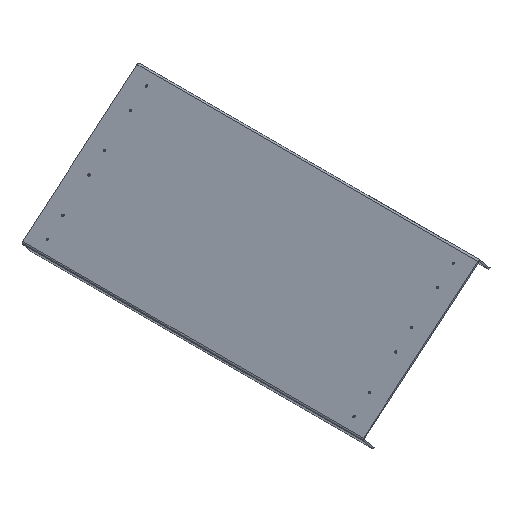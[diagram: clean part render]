
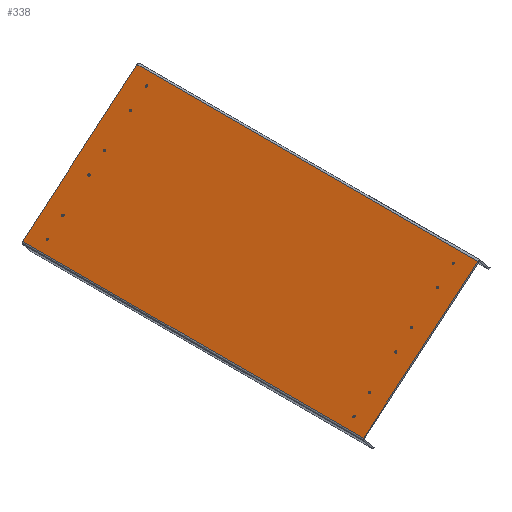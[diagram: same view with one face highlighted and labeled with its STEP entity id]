
A CAD part, isometric view. The second image highlights one B-rep face of the part: STEP entity #338.
In plain terms, the highlighted planar face has unit normal (-0.643, 0, 0.766).
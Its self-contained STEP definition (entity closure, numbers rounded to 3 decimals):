
#59=CARTESIAN_POINT('',(122.451,3520.5,1168.119));
#60=DIRECTION('',(-0.643,0.,0.766));
#61=DIRECTION('',(0.,1.,0.));
#62=AXIS2_PLACEMENT_3D('',#59,#60,#61);
#63=PLANE('',#62);
#64=CARTESIAN_POINT('',(-160.985,3557.9,930.287));
#65=VERTEX_POINT('',#64);
#66=CARTESIAN_POINT('',(-158.993,3560.5,931.959));
#67=VERTEX_POINT('',#66);
#68=CARTESIAN_POINT('',(-160.985,3560.5,930.287));
#69=DIRECTION('',(-0.643,0.,0.766));
#70=DIRECTION('',(0.766,0.,0.643));
#71=AXIS2_PLACEMENT_3D('',#68,#69,#70);
#72=CIRCLE('',#71,2.6);
#73=EDGE_CURVE('',#65,#67,#72,.T.);
#74=ORIENTED_EDGE('',*,*,#73,.F.);
#75=CARTESIAN_POINT('',(-160.985,3560.5,930.287));
#76=DIRECTION('',(-0.643,0.,0.766));
#77=DIRECTION('',(0.766,0.,0.643));
#78=AXIS2_PLACEMENT_3D('',#75,#76,#77);
#79=CIRCLE('',#78,2.6);
#80=EDGE_CURVE('',#67,#65,#79,.T.);
#81=ORIENTED_EDGE('',*,*,#80,.F.);
#82=EDGE_LOOP('',(#74,#81));
#83=FACE_BOUND('',#82,.T.);
#84=CARTESIAN_POINT('',(-115.022,3557.9,968.855));
#85=VERTEX_POINT('',#84);
#86=CARTESIAN_POINT('',(-113.031,3560.5,970.526));
#87=VERTEX_POINT('',#86);
#88=CARTESIAN_POINT('',(-115.022,3560.5,968.855));
#89=DIRECTION('',(-0.643,0.,0.766));
#90=DIRECTION('',(0.766,0.,0.643));
#91=AXIS2_PLACEMENT_3D('',#88,#89,#90);
#92=CIRCLE('',#91,2.6);
#93=EDGE_CURVE('',#85,#87,#92,.T.);
#94=ORIENTED_EDGE('',*,*,#93,.F.);
#95=CARTESIAN_POINT('',(-115.022,3560.5,968.855));
#96=DIRECTION('',(-0.643,0.,0.766));
#97=DIRECTION('',(0.766,0.,0.643));
#98=AXIS2_PLACEMENT_3D('',#95,#96,#97);
#99=CIRCLE('',#98,2.6);
#100=EDGE_CURVE('',#87,#85,#99,.T.);
#101=ORIENTED_EDGE('',*,*,#100,.F.);
#102=EDGE_LOOP('',(#94,#101));
#103=FACE_BOUND('',#102,.T.);
#104=CARTESIAN_POINT('',(-38.418,3557.9,1033.133));
#105=VERTEX_POINT('',#104);
#106=CARTESIAN_POINT('',(-36.426,3560.5,1034.805));
#107=VERTEX_POINT('',#106);
#108=CARTESIAN_POINT('',(-38.418,3560.5,1033.133));
#109=DIRECTION('',(-0.643,0.,0.766));
#110=DIRECTION('',(0.766,0.,0.643));
#111=AXIS2_PLACEMENT_3D('',#108,#109,#110);
#112=CIRCLE('',#111,2.6);
#113=EDGE_CURVE('',#105,#107,#112,.T.);
#114=ORIENTED_EDGE('',*,*,#113,.F.);
#115=CARTESIAN_POINT('',(-38.418,3560.5,1033.133));
#116=DIRECTION('',(-0.643,0.,0.766));
#117=DIRECTION('',(0.766,0.,0.643));
#118=AXIS2_PLACEMENT_3D('',#115,#116,#117);
#119=CIRCLE('',#118,2.6);
#120=EDGE_CURVE('',#107,#105,#119,.T.);
#121=ORIENTED_EDGE('',*,*,#120,.F.);
#122=EDGE_LOOP('',(#114,#121));
#123=FACE_BOUND('',#122,.T.);
#124=CARTESIAN_POINT('',(7.545,3557.9,1071.701));
#125=VERTEX_POINT('',#124);
#126=CARTESIAN_POINT('',(9.536,3560.5,1073.372));
#127=VERTEX_POINT('',#126);
#128=CARTESIAN_POINT('',(7.545,3560.5,1071.701));
#129=DIRECTION('',(-0.643,0.,0.766));
#130=DIRECTION('',(0.766,0.,0.643));
#131=AXIS2_PLACEMENT_3D('',#128,#129,#130);
#132=CIRCLE('',#131,2.6);
#133=EDGE_CURVE('',#125,#127,#132,.T.);
#134=ORIENTED_EDGE('',*,*,#133,.F.);
#135=CARTESIAN_POINT('',(7.545,3560.5,1071.701));
#136=DIRECTION('',(-0.643,0.,0.766));
#137=DIRECTION('',(0.766,0.,0.643));
#138=AXIS2_PLACEMENT_3D('',#135,#136,#137);
#139=CIRCLE('',#138,2.6);
#140=EDGE_CURVE('',#127,#125,#139,.T.);
#141=ORIENTED_EDGE('',*,*,#140,.F.);
#142=EDGE_LOOP('',(#134,#141));
#143=FACE_BOUND('',#142,.T.);
#144=CARTESIAN_POINT('',(84.149,3557.9,1135.979));
#145=VERTEX_POINT('',#144);
#146=CARTESIAN_POINT('',(86.141,3560.5,1137.651));
#147=VERTEX_POINT('',#146);
#148=CARTESIAN_POINT('',(84.149,3560.5,1135.979));
#149=DIRECTION('',(-0.643,0.,0.766));
#150=DIRECTION('',(0.766,0.,0.643));
#151=AXIS2_PLACEMENT_3D('',#148,#149,#150);
#152=CIRCLE('',#151,2.6);
#153=EDGE_CURVE('',#145,#147,#152,.T.);
#154=ORIENTED_EDGE('',*,*,#153,.F.);
#155=CARTESIAN_POINT('',(84.149,3560.5,1135.979));
#156=DIRECTION('',(-0.643,0.,0.766));
#157=DIRECTION('',(0.766,0.,0.643));
#158=AXIS2_PLACEMENT_3D('',#155,#156,#157);
#159=CIRCLE('',#158,2.6);
#160=EDGE_CURVE('',#147,#145,#159,.T.);
#161=ORIENTED_EDGE('',*,*,#160,.F.);
#162=EDGE_LOOP('',(#154,#161));
#163=FACE_BOUND('',#162,.T.);
#164=CARTESIAN_POINT('',(130.112,3557.9,1174.547));
#165=VERTEX_POINT('',#164);
#166=CARTESIAN_POINT('',(132.103,3560.5,1176.218));
#167=VERTEX_POINT('',#166);
#168=CARTESIAN_POINT('',(130.112,3560.5,1174.547));
#169=DIRECTION('',(-0.643,0.,0.766));
#170=DIRECTION('',(0.766,0.,0.643));
#171=AXIS2_PLACEMENT_3D('',#168,#169,#170);
#172=CIRCLE('',#171,2.6);
#173=EDGE_CURVE('',#165,#167,#172,.T.);
#174=ORIENTED_EDGE('',*,*,#173,.F.);
#175=CARTESIAN_POINT('',(130.112,3560.5,1174.547));
#176=DIRECTION('',(-0.643,0.,0.766));
#177=DIRECTION('',(0.766,0.,0.643));
#178=AXIS2_PLACEMENT_3D('',#175,#176,#177);
#179=CIRCLE('',#178,2.6);
#180=EDGE_CURVE('',#167,#165,#179,.T.);
#181=ORIENTED_EDGE('',*,*,#180,.F.);
#182=EDGE_LOOP('',(#174,#181));
#183=FACE_BOUND('',#182,.T.);
#184=CARTESIAN_POINT('',(-115.022,4457.9,968.855));
#185=VERTEX_POINT('',#184);
#186=CARTESIAN_POINT('',(-113.031,4460.5,970.526));
#187=VERTEX_POINT('',#186);
#188=CARTESIAN_POINT('',(-115.022,4460.5,968.855));
#189=DIRECTION('',(-0.643,0.,0.766));
#190=DIRECTION('',(0.766,0.,0.643));
#191=AXIS2_PLACEMENT_3D('',#188,#189,#190);
#192=CIRCLE('',#191,2.6);
#193=EDGE_CURVE('',#185,#187,#192,.T.);
#194=ORIENTED_EDGE('',*,*,#193,.F.);
#195=CARTESIAN_POINT('',(-115.022,4460.5,968.855));
#196=DIRECTION('',(-0.643,0.,0.766));
#197=DIRECTION('',(0.766,0.,0.643));
#198=AXIS2_PLACEMENT_3D('',#195,#196,#197);
#199=CIRCLE('',#198,2.6);
#200=EDGE_CURVE('',#187,#185,#199,.T.);
#201=ORIENTED_EDGE('',*,*,#200,.F.);
#202=EDGE_LOOP('',(#194,#201));
#203=FACE_BOUND('',#202,.T.);
#204=CARTESIAN_POINT('',(-160.985,4457.9,930.287));
#205=VERTEX_POINT('',#204);
#206=CARTESIAN_POINT('',(-158.993,4460.5,931.959));
#207=VERTEX_POINT('',#206);
#208=CARTESIAN_POINT('',(-160.985,4460.5,930.287));
#209=DIRECTION('',(-0.643,0.,0.766));
#210=DIRECTION('',(0.766,0.,0.643));
#211=AXIS2_PLACEMENT_3D('',#208,#209,#210);
#212=CIRCLE('',#211,2.6);
#213=EDGE_CURVE('',#205,#207,#212,.T.);
#214=ORIENTED_EDGE('',*,*,#213,.F.);
#215=CARTESIAN_POINT('',(-160.985,4460.5,930.287));
#216=DIRECTION('',(-0.643,0.,0.766));
#217=DIRECTION('',(0.766,0.,0.643));
#218=AXIS2_PLACEMENT_3D('',#215,#216,#217);
#219=CIRCLE('',#218,2.6);
#220=EDGE_CURVE('',#207,#205,#219,.T.);
#221=ORIENTED_EDGE('',*,*,#220,.F.);
#222=EDGE_LOOP('',(#214,#221));
#223=FACE_BOUND('',#222,.T.);
#224=CARTESIAN_POINT('',(130.112,4457.9,1174.547));
#225=VERTEX_POINT('',#224);
#226=CARTESIAN_POINT('',(132.103,4460.5,1176.218));
#227=VERTEX_POINT('',#226);
#228=CARTESIAN_POINT('',(130.112,4460.5,1174.547));
#229=DIRECTION('',(-0.643,0.,0.766));
#230=DIRECTION('',(0.766,0.,0.643));
#231=AXIS2_PLACEMENT_3D('',#228,#229,#230);
#232=CIRCLE('',#231,2.6);
#233=EDGE_CURVE('',#225,#227,#232,.T.);
#234=ORIENTED_EDGE('',*,*,#233,.F.);
#235=CARTESIAN_POINT('',(130.112,4460.5,1174.547));
#236=DIRECTION('',(-0.643,0.,0.766));
#237=DIRECTION('',(0.766,0.,0.643));
#238=AXIS2_PLACEMENT_3D('',#235,#236,#237);
#239=CIRCLE('',#238,2.6);
#240=EDGE_CURVE('',#227,#225,#239,.T.);
#241=ORIENTED_EDGE('',*,*,#240,.F.);
#242=EDGE_LOOP('',(#234,#241));
#243=FACE_BOUND('',#242,.T.);
#244=CARTESIAN_POINT('',(84.149,4457.9,1135.979));
#245=VERTEX_POINT('',#244);
#246=CARTESIAN_POINT('',(86.141,4460.5,1137.651));
#247=VERTEX_POINT('',#246);
#248=CARTESIAN_POINT('',(84.149,4460.5,1135.979));
#249=DIRECTION('',(-0.643,0.,0.766));
#250=DIRECTION('',(0.766,0.,0.643));
#251=AXIS2_PLACEMENT_3D('',#248,#249,#250);
#252=CIRCLE('',#251,2.6);
#253=EDGE_CURVE('',#245,#247,#252,.T.);
#254=ORIENTED_EDGE('',*,*,#253,.F.);
#255=CARTESIAN_POINT('',(84.149,4460.5,1135.979));
#256=DIRECTION('',(-0.643,0.,0.766));
#257=DIRECTION('',(0.766,0.,0.643));
#258=AXIS2_PLACEMENT_3D('',#255,#256,#257);
#259=CIRCLE('',#258,2.6);
#260=EDGE_CURVE('',#247,#245,#259,.T.);
#261=ORIENTED_EDGE('',*,*,#260,.F.);
#262=EDGE_LOOP('',(#254,#261));
#263=FACE_BOUND('',#262,.T.);
#264=CARTESIAN_POINT('',(-38.418,4457.9,1033.133));
#265=VERTEX_POINT('',#264);
#266=CARTESIAN_POINT('',(-36.426,4460.5,1034.805));
#267=VERTEX_POINT('',#266);
#268=CARTESIAN_POINT('',(-38.418,4460.5,1033.133));
#269=DIRECTION('',(-0.643,0.,0.766));
#270=DIRECTION('',(0.766,0.,0.643));
#271=AXIS2_PLACEMENT_3D('',#268,#269,#270);
#272=CIRCLE('',#271,2.6);
#273=EDGE_CURVE('',#265,#267,#272,.T.);
#274=ORIENTED_EDGE('',*,*,#273,.F.);
#275=CARTESIAN_POINT('',(-38.418,4460.5,1033.133));
#276=DIRECTION('',(-0.643,0.,0.766));
#277=DIRECTION('',(0.766,0.,0.643));
#278=AXIS2_PLACEMENT_3D('',#275,#276,#277);
#279=CIRCLE('',#278,2.6);
#280=EDGE_CURVE('',#267,#265,#279,.T.);
#281=ORIENTED_EDGE('',*,*,#280,.F.);
#282=EDGE_LOOP('',(#274,#281));
#283=FACE_BOUND('',#282,.T.);
#284=CARTESIAN_POINT('',(7.545,4457.9,1071.701));
#285=VERTEX_POINT('',#284);
#286=CARTESIAN_POINT('',(9.536,4460.5,1073.372));
#287=VERTEX_POINT('',#286);
#288=CARTESIAN_POINT('',(7.545,4460.5,1071.701));
#289=DIRECTION('',(-0.643,0.,0.766));
#290=DIRECTION('',(0.766,0.,0.643));
#291=AXIS2_PLACEMENT_3D('',#288,#289,#290);
#292=CIRCLE('',#291,2.6);
#293=EDGE_CURVE('',#285,#287,#292,.T.);
#294=ORIENTED_EDGE('',*,*,#293,.F.);
#295=CARTESIAN_POINT('',(7.545,4460.5,1071.701));
#296=DIRECTION('',(-0.643,0.,0.766));
#297=DIRECTION('',(0.766,0.,0.643));
#298=AXIS2_PLACEMENT_3D('',#295,#296,#297);
#299=CIRCLE('',#298,2.6);
#300=EDGE_CURVE('',#287,#285,#299,.T.);
#301=ORIENTED_EDGE('',*,*,#300,.F.);
#302=EDGE_LOOP('',(#294,#301));
#303=FACE_BOUND('',#302,.T.);
#304=CARTESIAN_POINT('',(152.327,4510.5,1193.188));
#305=VERTEX_POINT('',#304);
#306=CARTESIAN_POINT('',(-183.2,4510.5,911.647));
#307=VERTEX_POINT('',#306);
#308=CARTESIAN_POINT('',(152.327,4510.5,1193.188));
#309=DIRECTION('',(-0.766,0.,-0.643));
#310=VECTOR('',#309,438.);
#311=LINE('',#308,#310);
#312=EDGE_CURVE('',#305,#307,#311,.T.);
#313=ORIENTED_EDGE('',*,*,#312,.T.);
#314=CARTESIAN_POINT('',(-183.2,3510.5,911.647));
#315=VERTEX_POINT('',#314);
#316=CARTESIAN_POINT('',(-183.2,4510.5,911.647));
#317=DIRECTION('',(-0.,-1.,-0.));
#318=VECTOR('',#317,1000.);
#319=LINE('',#316,#318);
#320=EDGE_CURVE('',#307,#315,#319,.T.);
#321=ORIENTED_EDGE('',*,*,#320,.T.);
#322=CARTESIAN_POINT('',(152.327,3510.5,1193.188));
#323=VERTEX_POINT('',#322);
#324=CARTESIAN_POINT('',(152.327,3510.5,1193.188));
#325=DIRECTION('',(-0.766,0.,-0.643));
#326=VECTOR('',#325,438.);
#327=LINE('',#324,#326);
#328=EDGE_CURVE('',#323,#315,#327,.T.);
#329=ORIENTED_EDGE('',*,*,#328,.F.);
#330=CARTESIAN_POINT('',(152.327,3510.5,1193.188));
#331=DIRECTION('',(0.,1.,0.));
#332=VECTOR('',#331,1000.);
#333=LINE('',#330,#332);
#334=EDGE_CURVE('',#323,#305,#333,.T.);
#335=ORIENTED_EDGE('',*,*,#334,.T.);
#336=EDGE_LOOP('',(#313,#321,#329,#335));
#337=FACE_BOUND('',#336,.T.);
#338=ADVANCED_FACE('',(#83,#103,#123,#143,#163,#183,#203,#223,#243,#263,#283,#303,#337),#63,.T.);
